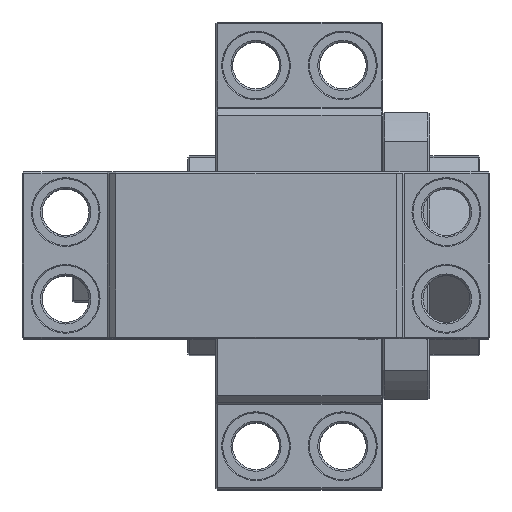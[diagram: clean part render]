
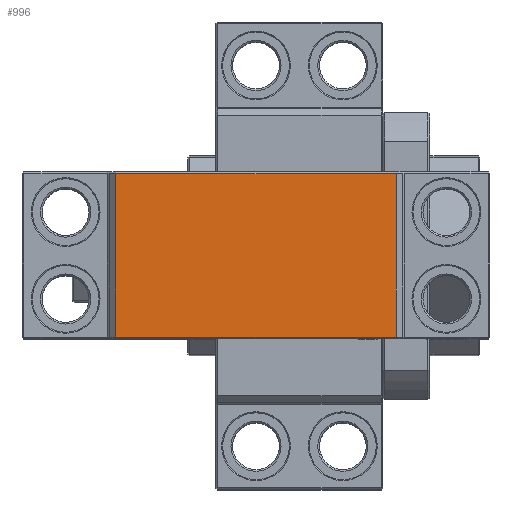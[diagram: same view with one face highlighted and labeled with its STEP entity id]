
A CAD part, top view. The second image highlights one B-rep face of the part: STEP entity #996.
In plain terms, the highlighted planar face has unit normal (0, 0, 1).
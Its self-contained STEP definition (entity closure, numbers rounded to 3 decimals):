
#996 = ADVANCED_FACE( '', ( #2355 ), #2356, .T. );
#2355 = FACE_OUTER_BOUND( '', #4029, .T. );
#2356 = PLANE( '', #4030 );
#4029 = EDGE_LOOP( '', ( #8287, #8288, #8289, #8290 ) );
#4030 = AXIS2_PLACEMENT_3D( '', #8291, #8292, #8293 );
#8287 = ORIENTED_EDGE( '', *, *, #11383, .T. );
#8288 = ORIENTED_EDGE( '', *, *, #11349, .T. );
#8289 = ORIENTED_EDGE( '', *, *, #11384, .T. );
#8290 = ORIENTED_EDGE( '', *, *, #11365, .T. );
#8291 = CARTESIAN_POINT( '', ( 0., -25., 96. ) );
#8292 = DIRECTION( '', ( 0., 0., 1. ) );
#8293 = DIRECTION( '', ( 1., 0., 0. ) );
#11349 = EDGE_CURVE( '', #13836, #13826, #13838, .T. );
#11365 = EDGE_CURVE( '', #13849, #13859, #13861, .T. );
#11383 = EDGE_CURVE( '', #13859, #13836, #13889, .T. );
#11384 = EDGE_CURVE( '', #13826, #13849, #13890, .T. );
#13826 = VERTEX_POINT( '', #18261 );
#13836 = VERTEX_POINT( '', #18278 );
#13838 = LINE( '', #18281, #18282 );
#13849 = VERTEX_POINT( '', #18300 );
#13859 = VERTEX_POINT( '', #18317 );
#13861 = LINE( '', #18320, #18321 );
#13889 = LINE( '', #18873, #18874 );
#13890 = LINE( '', #18875, #18876 );
#18261 = CARTESIAN_POINT( '', ( -42., 24.5, 96. ) );
#18278 = CARTESIAN_POINT( '', ( 42., 24.5, 96. ) );
#18281 = CARTESIAN_POINT( '', ( 0., 24.5, 96. ) );
#18282 = VECTOR( '', #22365, 1000. );
#18300 = CARTESIAN_POINT( '', ( -42., -24.5, 96. ) );
#18317 = CARTESIAN_POINT( '', ( 42., -24.5, 96. ) );
#18320 = CARTESIAN_POINT( '', ( 42., -24.5, 96. ) );
#18321 = VECTOR( '', #22381, 1000. );
#18873 = CARTESIAN_POINT( '', ( 42., -25., 96. ) );
#18874 = VECTOR( '', #22399, 1000. );
#18875 = CARTESIAN_POINT( '', ( -42., -25., 96. ) );
#18876 = VECTOR( '', #22400, 1000. );
#22365 = DIRECTION( '', ( -1., 0., 0. ) );
#22381 = DIRECTION( '', ( 1., 0., 0. ) );
#22399 = DIRECTION( '', ( 0., 1., 0. ) );
#22400 = DIRECTION( '', ( 0., -1., 0. ) );
